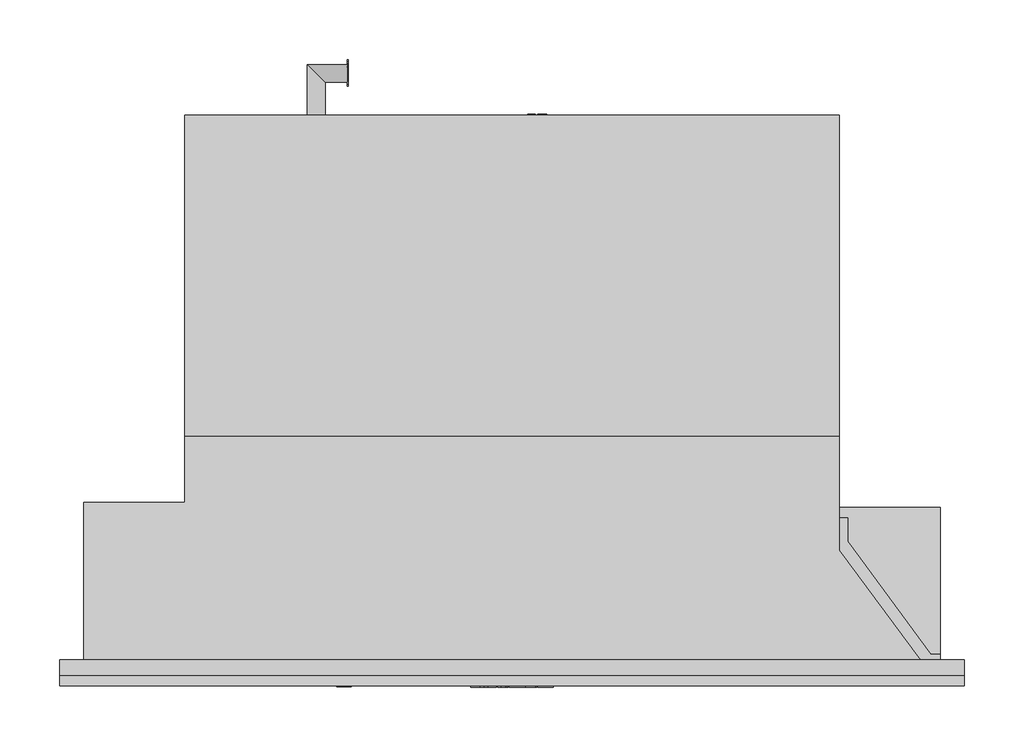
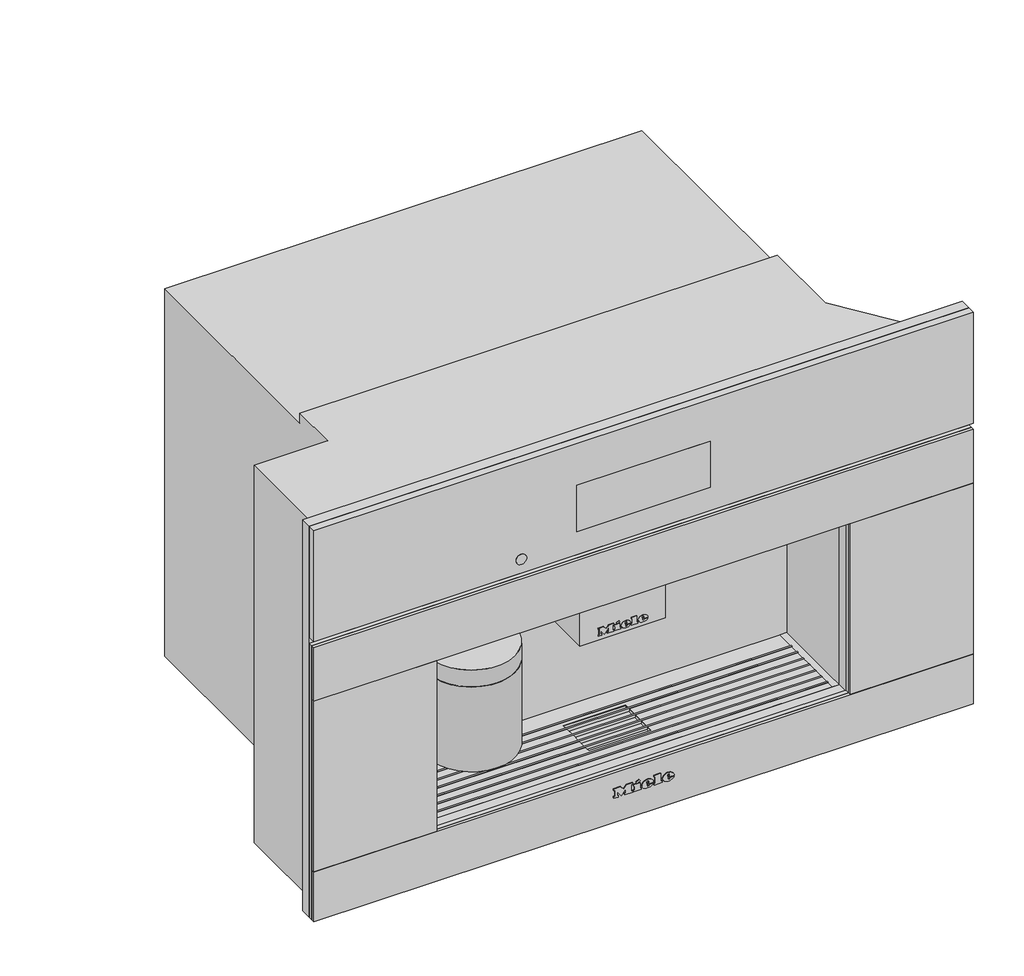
# Not in any storey: 1 proxy.
"""IFC4 building model written with IfcOpenShell, lengths in millimetres."""

from ifc_helpers import new_model, si_unit, origin, place, context, project, spatial, transform, mapped, element, save
from components import specialty_equipment_ae1940a0

model = new_model("IFC4")

# Units and contexts
model_context = context("Model", 3, world=origin())
ifc_project = project(units=[si_unit("LENGTHUNIT", "METRE", prefix="MILLI")], contexts=[model_context])

# Site, building
site = spatial("IfcSite", under=ifc_project)
building = spatial("IfcBuilding", under=site)

# Proxy
placement = place(None, origin())
specialty_equipment_shape = specialty_equipment_ae1940a0(model_context)
element("IfcBuildingElementProxy", 1, Name="12635820_USA_CVA7875_GRGR : 29787530_USA_12635820_CVA7875_GRGR", ObjectType="12635820_USA_CVA7875_GRGR : 29787530_USA_12635820_CVA7875_GRGR", at=placement, inside=building, context=model_context, shape_type="MappedRepresentation", body=[
    mapped(specialty_equipment_shape, transform((0.0, 0.0, 0.0), x_axis=(1.0, 0.0, 0.0), y_axis=(0.0, 1.0, 0.0), z_axis=(0.0, 0.0, 1.0))),
])

save(model, "model.ifc")
